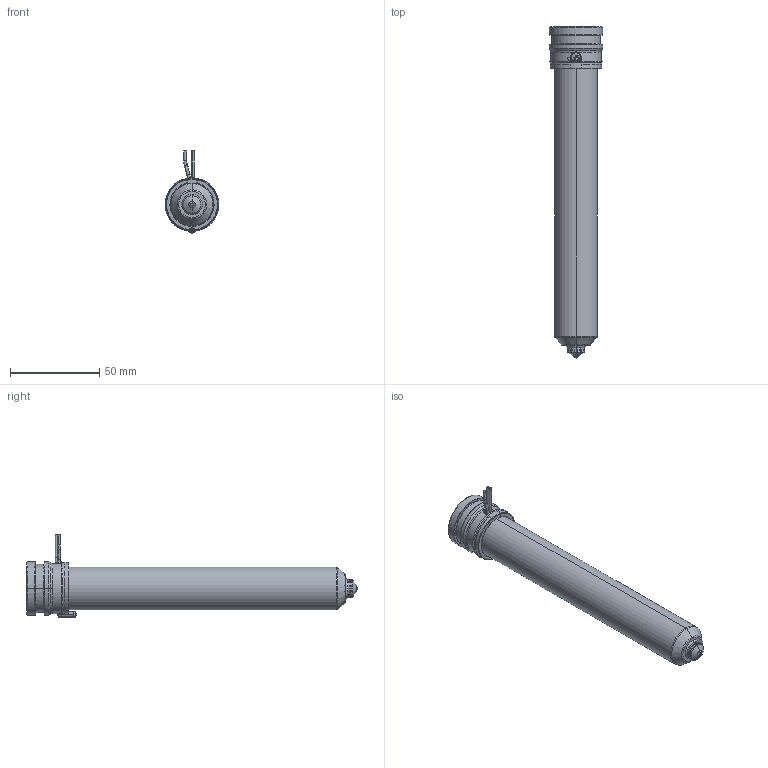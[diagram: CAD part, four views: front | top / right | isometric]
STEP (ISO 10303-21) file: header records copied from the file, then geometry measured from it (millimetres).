
FILE_DESCRIPTION((''),'2;1');
FILE_NAME('MPN-10-29-VSA10-166-A','2026-02-05T12:45:15',('UPTIO'),('Thermoplay S.p.A.'),'CREO PARAMETRIC BY PTC INC, 2023494','CREO PARAMETRIC BY PTC INC, 2023494','');
FILE_SCHEMA(('CONFIG_CONTROL_DESIGN','SHAPE_APPEARANCE_LAYERS_GROUPS'));
Length unit declared in the file: millimetre
Products named in the file (1): MPN-10-29-VSA10-166-A
Bounding box: 30 x 186 x 46 mm (x, y, z)
Volume: 57880.5 mm3; surface area: 58601.3 mm2
Topology: 2 solids, 3 shells, 556 faces, 1451 edges, 894 vertices
Faces by surface type: cylinder 184, plane 142, bspline 77, torus 70, cone 70, sphere 9, extrusion 4
Entity records: 30656 total; most frequent: CARTESIAN_POINT 14242, ORIENTED_EDGE 2890, DIRECTION 2691, EDGE_CURVE 1445, AXIS2_PLACEMENT_3D 1066, VERTEX_POINT 894, CIRCLE 590, EDGE_LOOP 585
